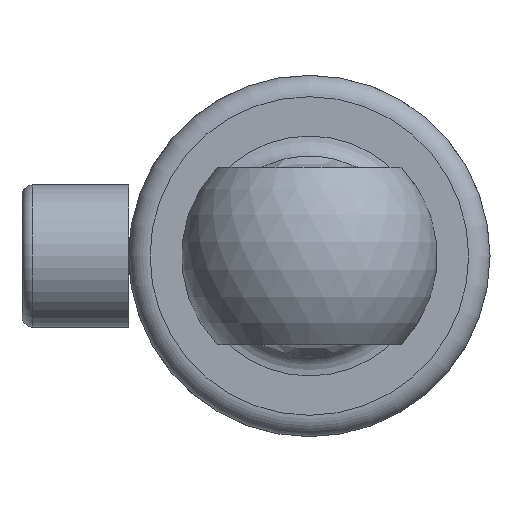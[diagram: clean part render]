
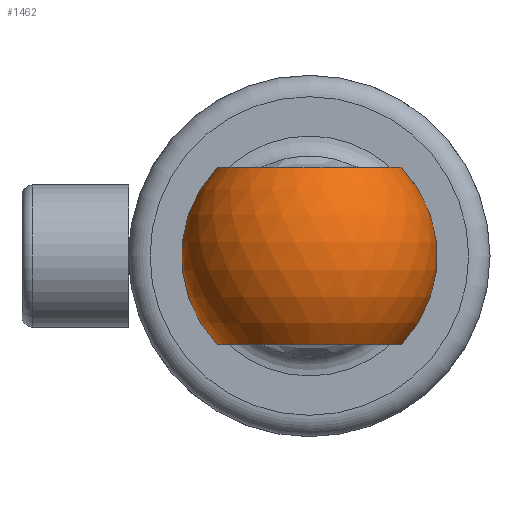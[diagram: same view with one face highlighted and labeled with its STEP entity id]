
A CAD part, left-side view. The second image highlights one B-rep face of the part: STEP entity #1462.
In plain terms, the highlighted spherical face has radius 18 mm.
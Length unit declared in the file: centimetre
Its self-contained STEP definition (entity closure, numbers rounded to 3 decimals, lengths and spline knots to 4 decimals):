
#54=SPHERICAL_SURFACE('',#1653,1.8);
#464=CIRCLE('',#1639,1.2952);
#466=CIRCLE('',#1643,1.2952);
#471=CIRCLE('',#1650,1.7881);
#572=VERTEX_POINT('',#2720);
#573=VERTEX_POINT('',#2722);
#577=VERTEX_POINT('',#2760);
#578=VERTEX_POINT('',#2762);
#701=EDGE_CURVE('',#573,#572,#464,.T.);
#706=EDGE_CURVE('',#578,#577,#466,.T.);
#716=EDGE_CURVE('',#573,#577,#471,.T.);
#717=EDGE_CURVE('',#578,#572,#471,.T.);
#943=ORIENTED_EDGE('',*,*,#701,.T.);
#944=ORIENTED_EDGE('',*,*,#717,.F.);
#945=ORIENTED_EDGE('',*,*,#706,.T.);
#946=ORIENTED_EDGE('',*,*,#716,.F.);
#1150=EDGE_LOOP('',(#943,#944,#945,#946));
#1354=FACE_BOUND('',#1150,.T.);
#1462=ADVANCED_FACE('',(#1354),#54,.T.);
#1639=AXIS2_PLACEMENT_3D('',#2721,#1991,#1992);
#1643=AXIS2_PLACEMENT_3D('',#2761,#1998,#1999);
#1650=AXIS2_PLACEMENT_3D('',#3026,#2011,#2012);
#1653=AXIS2_PLACEMENT_3D('',#3030,#2016,#2017);
#1991=DIRECTION('',(0.,0.,1.));
#1992=DIRECTION('',(0.,1.295,0.));
#1998=DIRECTION('',(0.,0.,-1.));
#1999=DIRECTION('',(0.,-1.295,0.));
#2011=DIRECTION('',(1.,0.,0.));
#2012=DIRECTION('',(0.,1.788,0.));
#2016=DIRECTION('',(0.,0.,1.));
#2017=DIRECTION('',(1.,0.,0.));
#2720=CARTESIAN_POINT('',(-3.7935,-1.2786,-1.25));
#2721=CARTESIAN_POINT('',(-4.,0.,-1.25));
#2722=CARTESIAN_POINT('',(-3.7935,1.2786,-1.25));
#2760=CARTESIAN_POINT('',(-3.7935,1.2786,1.25));
#2761=CARTESIAN_POINT('',(-4.,0.,1.25));
#2762=CARTESIAN_POINT('',(-3.7935,-1.2786,1.25));
#3026=CARTESIAN_POINT('',(-3.7935,0.,0.));
#3030=CARTESIAN_POINT('',(-4.,0.,0.));
